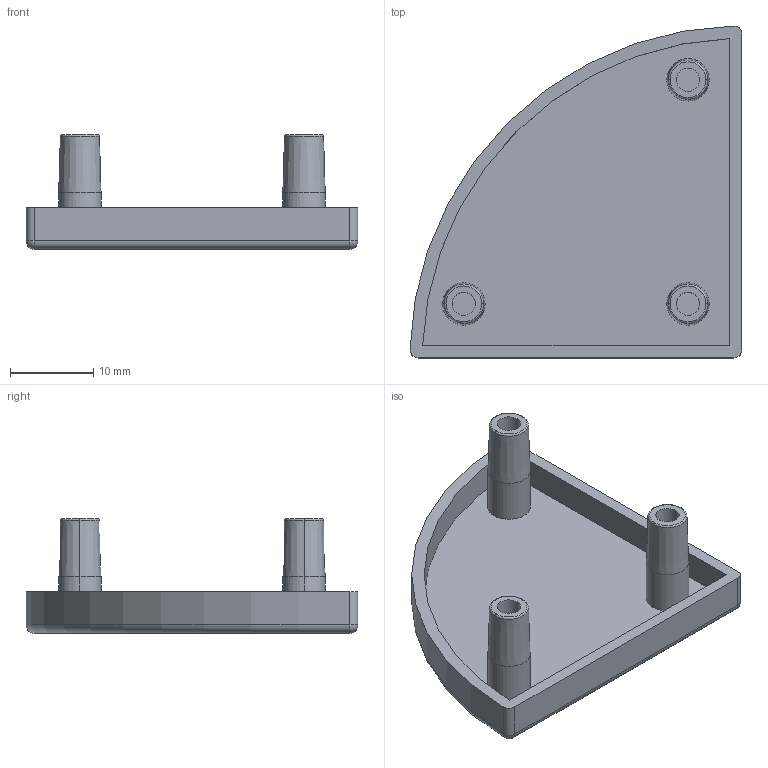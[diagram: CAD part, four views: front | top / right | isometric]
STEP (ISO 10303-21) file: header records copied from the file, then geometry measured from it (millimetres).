
FILE_DESCRIPTION (( 'STEP AP203' ), '1' );
FILE_NAME ('DRFEC4040.STEP', '2022-06-24T03:55:50', ( '' ), ( '' ), 'SwSTEP 2.0', 'SolidWorks 2017', '' );
FILE_SCHEMA (( 'CONFIG_CONTROL_DESIGN' ));
Length unit declared in the file: millimetre
Products named in the file (1): DRFEC4040
Bounding box: 39.99 x 39.99 x 13.8 mm (x, y, z)
Volume: 3065 mm3; surface area: 4508.2 mm2
Topology: 1 solids, 1 shells, 49 faces, 103 edges, 60 vertices
Faces by surface type: cylinder 20, plane 13, torus 7, cone 6, sphere 3
Entity records: 1363 total; most frequent: DIRECTION 260, CARTESIAN_POINT 208, ORIENTED_EDGE 198, AXIS2_PLACEMENT_3D 111, EDGE_CURVE 99, CIRCLE 61, VERTEX_POINT 59, EDGE_LOOP 56
